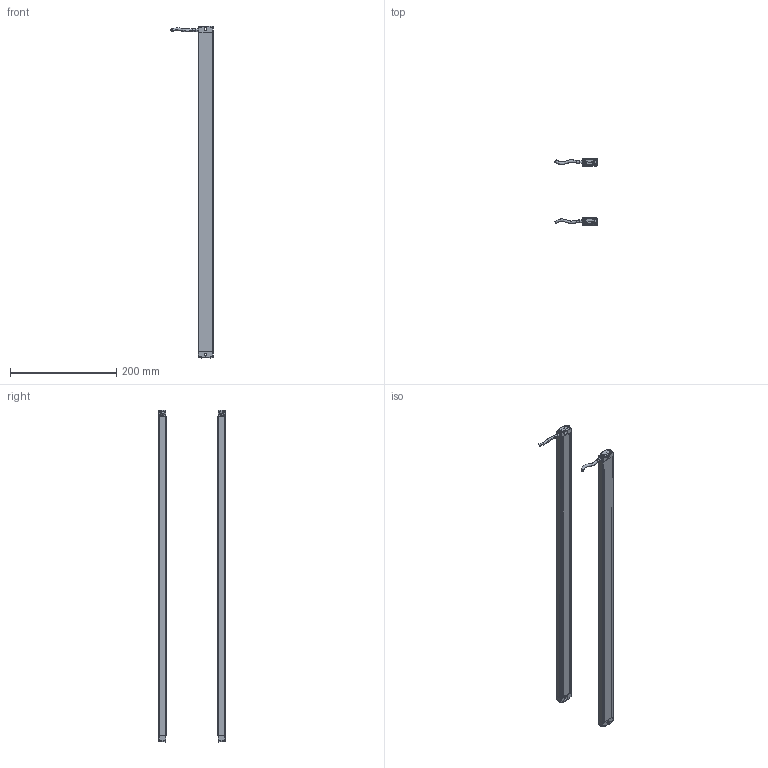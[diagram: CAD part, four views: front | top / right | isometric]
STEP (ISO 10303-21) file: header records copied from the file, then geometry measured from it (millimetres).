
FILE_DESCRIPTION(/* description */ (''),/* implementation_level */ '2;1');
FILE_NAME(/* name */ '6010(13X28W).stp',/* time_stamp */ '2023-10-23T09:40:35+08:00',/* author */ (''),/* organization */ (''),/* preprocessor_version */ 'ST-DEVELOPER v16.7',/* originating_system */ 'SIEMENS PLM Software NX 12.0',/* authorisation */ '');
FILE_SCHEMA (('AP203_CONFIGURATION_CONTROLLED_3D_DESIGN_OF_MECHANICAL_PARTS_AND_ASSEMBLIES_MIM_LF { 1 0 10303 403 2 1 2}'));
Length unit declared in the file: millimetre
Products named in the file (1): 5010_13x28w__stp
Bounding box: 79.6 x 125.02 x 626 mm (x, y, z)
Volume: 183309.1 mm3; surface area: 243290.8 mm2
Topology: 10 solids, 10 shells, 760 faces, 2126 edges, 1395 vertices
Faces by surface type: plane 356, cylinder 312, torus 52, bspline 40
Entity records: 28108 total; most frequent: CARTESIAN_POINT 8699, ORIENTED_EDGE 4252, DIRECTION 3737, EDGE_CURVE 2126, VERTEX_POINT 1395, AXIS2_PLACEMENT_3D 1261, LINE 1215, VECTOR 1215
